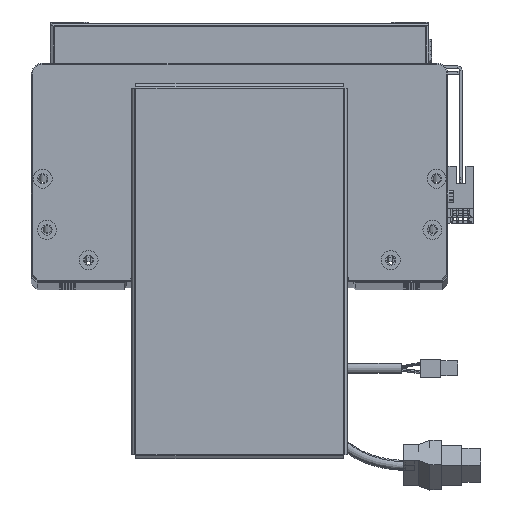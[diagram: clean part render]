
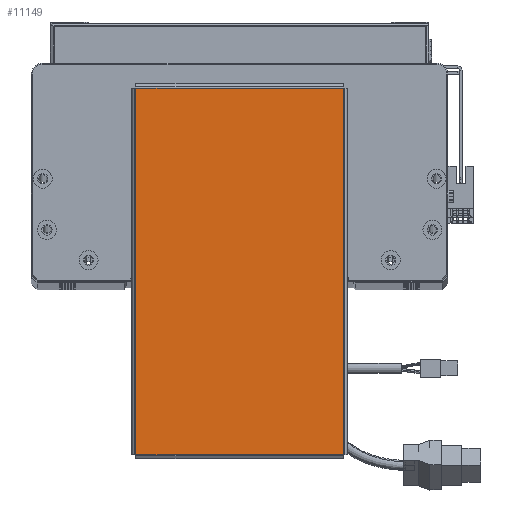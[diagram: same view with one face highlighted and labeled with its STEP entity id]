
A CAD part, top view. The second image highlights one B-rep face of the part: STEP entity #11149.
In plain terms, the highlighted planar face has unit normal (0, 0, 1).
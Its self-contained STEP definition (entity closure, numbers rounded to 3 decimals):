
#4291 = LINE ( 'NONE', #34167, #60172 ) ;
#8648 = VECTOR ( 'NONE', #11454, 1000. ) ;
#9421 = VECTOR ( 'NONE', #43072, 1000. ) ;
#11149 = ADVANCED_FACE ( 'NONE', ( #60476 ), #71230, .T. ) ;
#11454 = DIRECTION ( 'NONE',  ( 1., 0., 0. ) ) ;
#11960 = ORIENTED_EDGE ( 'NONE', *, *, #49969, .T. ) ;
#12099 = DIRECTION ( 'NONE',  ( 0., 1., 0. ) ) ;
#13363 = DIRECTION ( 'NONE',  ( 0., -1., 0. ) ) ;
#13747 = LINE ( 'NONE', #30610, #16246 ) ;
#16246 = VECTOR ( 'NONE', #13363, 1000. ) ;
#16421 = CARTESIAN_POINT ( 'NONE',  ( -96.793, -54.763, 0. ) ) ;
#17041 = VERTEX_POINT ( 'NONE', #55044 ) ;
#21675 = AXIS2_PLACEMENT_3D ( 'NONE', #37687, #37929, #43415 ) ;
#23747 = CARTESIAN_POINT ( 'NONE',  ( 96.763, 54.763, 0. ) ) ;
#24422 = VERTEX_POINT ( 'NONE', #23747 ) ;
#30610 = CARTESIAN_POINT ( 'NONE',  ( -96.763, 54.793, 0. ) ) ;
#34167 = CARTESIAN_POINT ( 'NONE',  ( 96.763, -54.793, 0. ) ) ;
#34872 = EDGE_LOOP ( 'NONE', ( #66083, #61784, #11960, #51287 ) ) ;
#35317 = LINE ( 'NONE', #16421, #8648 ) ;
#36792 = EDGE_CURVE ( 'NONE', #46365, #44588, #35317, .T. ) ;
#36958 = LINE ( 'NONE', #70879, #9421 ) ;
#37687 = CARTESIAN_POINT ( 'NONE',  ( 0., 0., 0. ) ) ;
#37929 = DIRECTION ( 'NONE',  ( 0., 0., 1. ) ) ;
#40805 = CARTESIAN_POINT ( 'NONE',  ( 96.763, -54.763, 0. ) ) ;
#42277 = CARTESIAN_POINT ( 'NONE',  ( -96.763, -54.763, 0. ) ) ;
#43072 = DIRECTION ( 'NONE',  ( -1., 0., 0. ) ) ;
#43415 = DIRECTION ( 'NONE',  ( 1., 0., 0. ) ) ;
#44588 = VERTEX_POINT ( 'NONE', #40805 ) ;
#46365 = VERTEX_POINT ( 'NONE', #42277 ) ;
#46989 = EDGE_CURVE ( 'NONE', #17041, #46365, #13747, .T. ) ;
#49969 = EDGE_CURVE ( 'NONE', #24422, #17041, #36958, .T. ) ;
#51287 = ORIENTED_EDGE ( 'NONE', *, *, #46989, .T. ) ;
#55044 = CARTESIAN_POINT ( 'NONE',  ( -96.763, 54.763, 0. ) ) ;
#60172 = VECTOR ( 'NONE', #12099, 1000. ) ;
#60476 = FACE_OUTER_BOUND ( 'NONE', #34872, .T. ) ;
#61784 = ORIENTED_EDGE ( 'NONE', *, *, #70079, .T. ) ;
#66083 = ORIENTED_EDGE ( 'NONE', *, *, #36792, .T. ) ;
#70079 = EDGE_CURVE ( 'NONE', #44588, #24422, #4291, .T. ) ;
#70879 = CARTESIAN_POINT ( 'NONE',  ( 96.793, 54.763, 0. ) ) ;
#71230 = PLANE ( 'NONE',  #21675 ) ;
